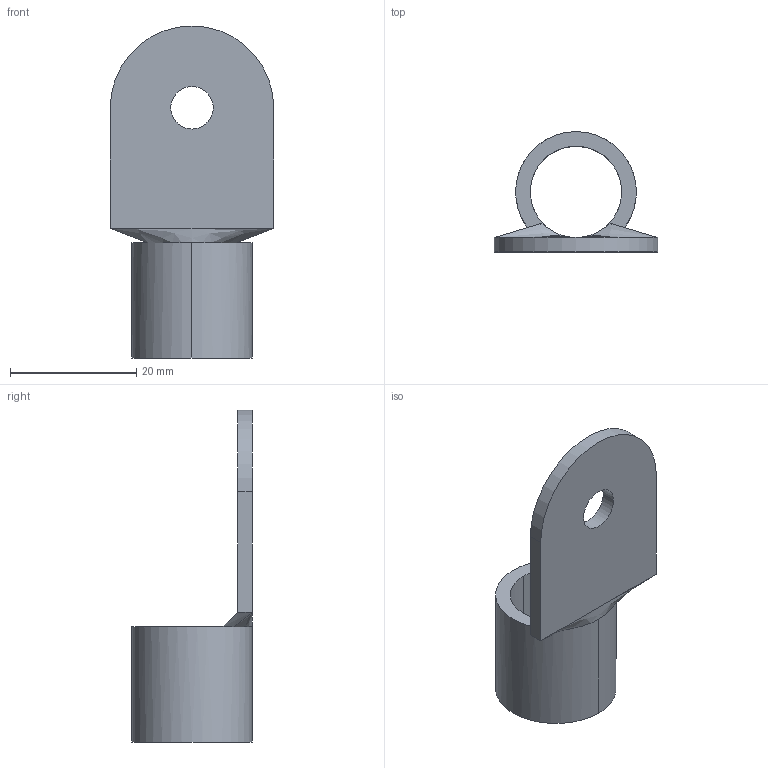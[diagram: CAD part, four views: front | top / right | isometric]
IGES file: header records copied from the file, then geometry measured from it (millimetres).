
Start section:  PTC IGES file: c-321877-e-3d.igs
Global section: file name: c-321877-e-3d.igs; native system: Pro/ENGINEER by Parametric Technology Corporation; preprocessor: 2005450; author: workeradm; organization: Unknown; date: 080729.002614; units: millimetre
Bounding box: 25.91 x 19.1 x 52.6 mm (x, y, z)
Surface area: 3952.1 mm2 (no closed solid volume)
Topology: 0 solids, 0 shells, 17 faces, 84 edges, 84 vertices
Faces by surface type: bspline 10, revolution 7
